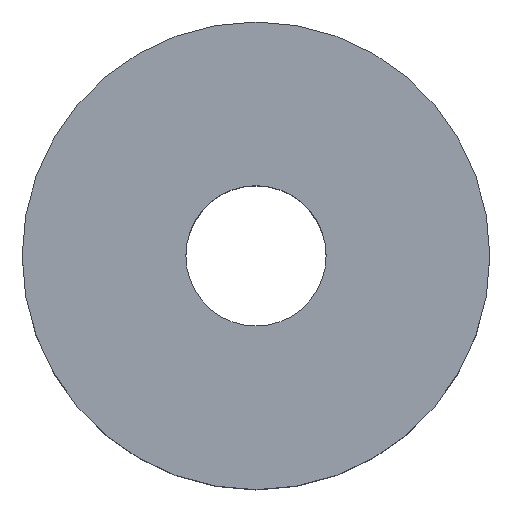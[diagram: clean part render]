
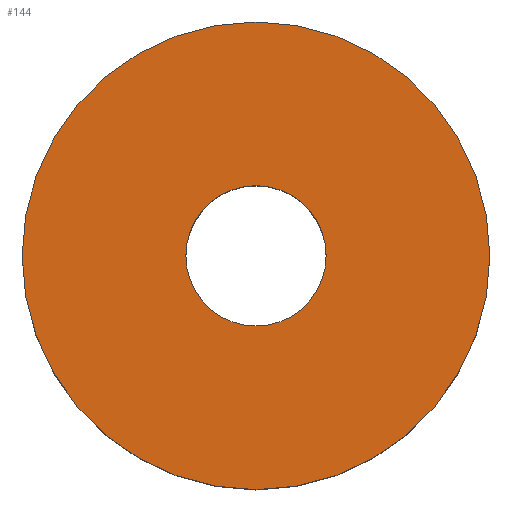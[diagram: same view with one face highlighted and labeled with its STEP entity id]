
A CAD part, top view. The second image highlights one B-rep face of the part: STEP entity #144.
In plain terms, the highlighted planar face has unit normal (0, 0, 1).
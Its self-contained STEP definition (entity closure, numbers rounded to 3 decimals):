
#31 = CYLINDRICAL_SURFACE('',#32,3.);
#32 = AXIS2_PLACEMENT_3D('',#33,#34,#35);
#33 = CARTESIAN_POINT('',(-22.5,-35.762,9.98));
#34 = DIRECTION('',(-0.,-0.,-1.));
#35 = DIRECTION('',(1.,0.,0.));
#56 = VERTEX_POINT('',#57);
#57 = CARTESIAN_POINT('',(-19.5,-35.762,12.25));
#78 = EDGE_CURVE('',#56,#56,#79,.T.);
#79 = SURFACE_CURVE('',#80,(#85,#92),.PCURVE_S1.);
#80 = CIRCLE('',#81,3.);
#81 = AXIS2_PLACEMENT_3D('',#82,#83,#84);
#82 = CARTESIAN_POINT('',(-22.5,-35.762,12.25));
#83 = DIRECTION('',(0.,0.,1.));
#84 = DIRECTION('',(1.,0.,-0.));
#85 = PCURVE('',#31,#86);
#86 = DEFINITIONAL_REPRESENTATION('',(#87),#91);
#87 = LINE('',#88,#89);
#88 = CARTESIAN_POINT('',(6.283,-2.27));
#89 = VECTOR('',#90,1.);
#90 = DIRECTION('',(-1.,0.));
#91 = ( GEOMETRIC_REPRESENTATION_CONTEXT(2) 
PARAMETRIC_REPRESENTATION_CONTEXT() REPRESENTATION_CONTEXT('2D SPACE',''
  ) );
#92 = PCURVE('',#93,#98);
#93 = PLANE('',#94);
#94 = AXIS2_PLACEMENT_3D('',#95,#96,#97);
#95 = CARTESIAN_POINT('',(-22.5,-35.762,12.25));
#96 = DIRECTION('',(0.,0.,1.));
#97 = DIRECTION('',(1.,0.,-0.));
#98 = DEFINITIONAL_REPRESENTATION('',(#99),#103);
#99 = CIRCLE('',#100,3.);
#100 = AXIS2_PLACEMENT_2D('',#101,#102);
#101 = CARTESIAN_POINT('',(0.,0.));
#102 = DIRECTION('',(1.,0.));
#103 = ( GEOMETRIC_REPRESENTATION_CONTEXT(2) 
PARAMETRIC_REPRESENTATION_CONTEXT() REPRESENTATION_CONTEXT('2D SPACE',''
  ) );
#133 = CYLINDRICAL_SURFACE('',#134,0.9);
#134 = AXIS2_PLACEMENT_3D('',#135,#136,#137);
#135 = CARTESIAN_POINT('',(-22.5,-35.762,9.8));
#136 = DIRECTION('',(-0.,-0.,-1.));
#137 = DIRECTION('',(1.,0.,0.));
#144 = ADVANCED_FACE('',(#145,#148),#93,.T.);
#145 = FACE_BOUND('',#146,.T.);
#146 = EDGE_LOOP('',(#147));
#147 = ORIENTED_EDGE('',*,*,#78,.T.);
#148 = FACE_BOUND('',#149,.T.);
#149 = EDGE_LOOP('',(#150));
#150 = ORIENTED_EDGE('',*,*,#151,.T.);
#151 = EDGE_CURVE('',#152,#152,#154,.T.);
#152 = VERTEX_POINT('',#153);
#153 = CARTESIAN_POINT('',(-21.6,-35.762,12.25));
#154 = SURFACE_CURVE('',#155,(#160,#171),.PCURVE_S1.);
#155 = CIRCLE('',#156,0.9);
#156 = AXIS2_PLACEMENT_3D('',#157,#158,#159);
#157 = CARTESIAN_POINT('',(-22.5,-35.762,12.25));
#158 = DIRECTION('',(0.,0.,-1.));
#159 = DIRECTION('',(1.,0.,0.));
#160 = PCURVE('',#93,#161);
#161 = DEFINITIONAL_REPRESENTATION('',(#162),#170);
#162 = ( BOUNDED_CURVE() B_SPLINE_CURVE(2,(#163,#164,#165,#166,#167,#168
,#169),.UNSPECIFIED.,.T.,.F.) B_SPLINE_CURVE_WITH_KNOTS((1,2,2,2,2,1),(
    -2.094,0.,2.094,4.189,6.283,
8.378),.UNSPECIFIED.) CURVE() GEOMETRIC_REPRESENTATION_ITEM() 
RATIONAL_B_SPLINE_CURVE((1.,0.5,1.,0.5,1.,0.5,1.)) REPRESENTATION_ITEM(
  '') );
#163 = CARTESIAN_POINT('',(0.9,0.));
#164 = CARTESIAN_POINT('',(0.9,-1.559));
#165 = CARTESIAN_POINT('',(-0.45,-0.779));
#166 = CARTESIAN_POINT('',(-1.8,0.));
#167 = CARTESIAN_POINT('',(-0.45,0.779));
#168 = CARTESIAN_POINT('',(0.9,1.559));
#169 = CARTESIAN_POINT('',(0.9,0.));
#170 = ( GEOMETRIC_REPRESENTATION_CONTEXT(2) 
PARAMETRIC_REPRESENTATION_CONTEXT() REPRESENTATION_CONTEXT('2D SPACE',''
  ) );
#171 = PCURVE('',#133,#172);
#172 = DEFINITIONAL_REPRESENTATION('',(#173),#177);
#173 = LINE('',#174,#175);
#174 = CARTESIAN_POINT('',(0.,-2.45));
#175 = VECTOR('',#176,1.);
#176 = DIRECTION('',(1.,-0.));
#177 = ( GEOMETRIC_REPRESENTATION_CONTEXT(2) 
PARAMETRIC_REPRESENTATION_CONTEXT() REPRESENTATION_CONTEXT('2D SPACE',''
  ) );
